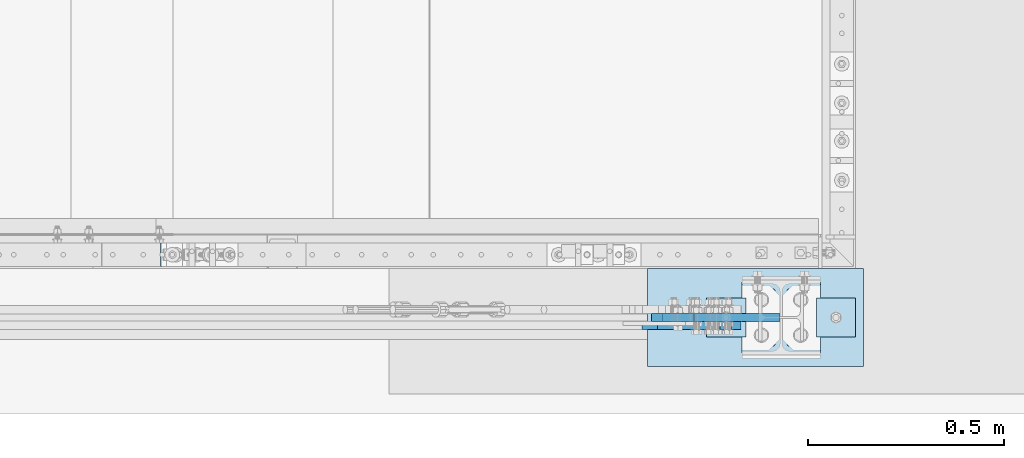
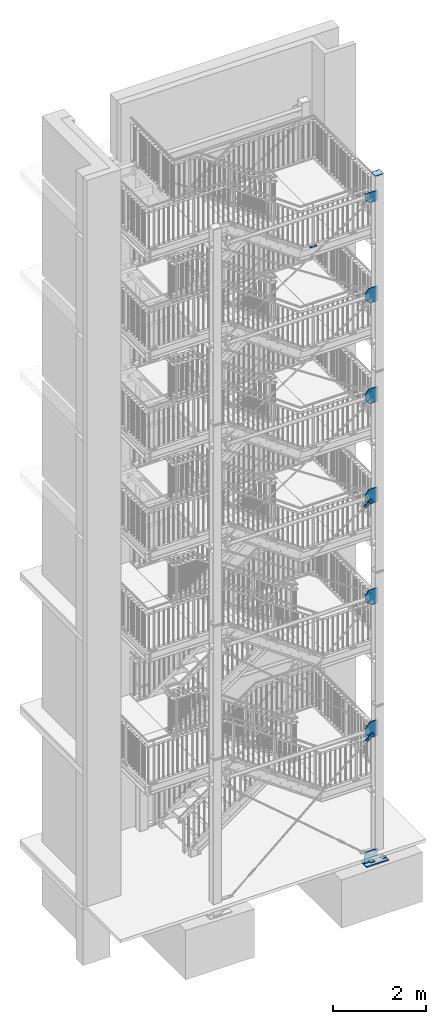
# One storey, part 194 of 825: 14 plates, 53 openings.
"""IFC2X3 building model written with IfcOpenShell, lengths in millimetres."""

from ifc_helpers import new_model, entity, si_unit, converted_unit, point, frame, frame_2d, origin, origin_with_axes, origin_2d_with_axis, place, context, project, spatial, polyline, circle_curve, line_curve, trimmed, segment, composite_curve, circle, outline, extrude, material, layer, layer_set, element, save


model = new_model("IFC2X3")

# Units and contexts
model_context = context("Model", 3, precision=1e-09, world=origin_with_axes())
ifc_project = project(units=[si_unit("LENGTHUNIT", "METRE", prefix="MILLI"), si_unit("AREAUNIT", "SQUARE_METRE"), si_unit("VOLUMEUNIT", "CUBIC_METRE"), converted_unit("PLANEANGLEUNIT", "DEGREE", entity("IfcPlaneAngleMeasure", 0.01745329), si_unit("PLANEANGLEUNIT", "RADIAN"), dimensions=[0, 0, 0, 0, 0, 0, 0])], contexts=[model_context])

# Site, building, storey
site_placement = place(None, origin_with_axes())
site = spatial("IfcSite", under=ifc_project, at=site_placement, Name="Cnopf'sche Kinderklinik", CompositionType="ELEMENT")
building_placement = place(site_placement, origin_with_axes())
building = spatial("IfcBuilding", under=site, at=building_placement, Name="Struktur 1", CompositionType="ELEMENT")
storey_placement = place(building_placement, origin_with_axes())
storey = spatial("IfcBuildingStorey", under=building, at=storey_placement, Name="Default Storey", CompositionType="ELEMENT", Elevation=0.0)

# Plate, opening
ifc_material = material(Name="S235JR")
ifc_layer_1 = layer(ifc_material, 12.0)
ifc_layer_set_1 = layer_set([ifc_layer_1], Name="S235JR")
plate_1_placement = place(None, frame((8726.713402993, 4366.736971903, 60.0), z_axis=(0.0, 0.0, 1.0), x_axis=(-1.0, 0.0, 0.0)))
plate_1 = element("IfcPlate", 1, at=plate_1_placement, inside=storey, material=ifc_layer_set_1, Name="-", ObjectType="-", context=model_context, shape_type="SweptSolid", body=[
    extrude(outline(polyline([(-50.0, -50.0), (50.0, -50.0), (50.0, 50.0), (-50.0, 50.0), (-50.0, -50.0)])), origin_with_axes(), (0.0, 0.0, 1.0), 12.0),
])
opening_1_placement = place(plate_1_placement, frame((1e-09, 1e-09, -0.5), z_axis=(0.0, 0.0, 1.0), x_axis=(1.0, 0.0, 0.0)))
element("IfcOpeningElement", 2, at=opening_1_placement, cuts=plate_1, ObjectType="Opening", context=model_context, shape_type="SweptSolid", body=[
    extrude(circle(Radius=9.001, at=origin_2d_with_axis()), origin(), (0.0, 0.0, 1.0), 13.0),
])

plate_2_placement = place(None, frame((9006.713402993, 4366.736971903, 60.0), z_axis=(0.0, 0.0, 1.0), x_axis=(-1.0, 0.0, 0.0)))
plate_2 = element("IfcPlate", 3, at=plate_2_placement, inside=storey, material=ifc_layer_set_1, Name="-", ObjectType="-", context=model_context, shape_type="SweptSolid", body=[
    extrude(outline(polyline([(-50.0, -50.0), (50.0, -50.0), (50.0, 50.0), (-50.0, 50.0), (-50.0, -50.0)])), origin_with_axes(), (0.0, 0.0, 1.0), 12.0),
])
opening_2_placement = place(plate_2_placement, frame((1e-09, 1e-09, -0.5), z_axis=(0.0, 0.0, 1.0), x_axis=(1.0, 0.0, 0.0)))
element("IfcOpeningElement", 4, at=opening_2_placement, cuts=plate_2, ObjectType="Opening", context=model_context, shape_type="SweptSolid", body=[
    extrude(circle(Radius=9.001, at=origin_2d_with_axis()), origin(), (0.0, 0.0, 1.0), 13.0),
])

# Plate, openings
ifc_layer_2 = layer(ifc_material, 30.0)
ifc_layer_set_2 = layer_set([ifc_layer_2], Name="S235JR")
plate_3_placement = place(None, frame((8801.713402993, 4366.736971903, 30.0), z_axis=(0.0, 0.0, 1.0), x_axis=(-1.0, 0.0, 0.0)))
plate_3 = element("IfcPlate", 5, at=plate_3_placement, inside=storey, material=ifc_layer_set_2, Name="-", ObjectType="-", context=model_context, shape_type="SweptSolid", body=[
    extrude(outline(polyline([(-275.0, -125.0), (275.0, -125.0), (275.0, 125.0), (-275.0, 125.0), (-275.0, -125.0)])), origin_with_axes(), (0.0, 0.0, 1.0), 30.0),
])
opening_3_placement = place(plate_3_placement, frame((-65.0, 0.0, -0.5), z_axis=(0.0, 0.0, 1.0), x_axis=(1.0, 0.0, 0.0)))
element("IfcOpeningElement", 6, at=opening_3_placement, cuts=plate_3, ObjectType="Opening", context=model_context, shape_type="SweptSolid", body=[
    extrude(circle(Radius=28.001, at=frame_2d((140.0, 0.0), x_axis=(1.0, 0.0))), origin(), (0.0, 0.0, 1.0), 31.0),
])
opening_4_placement = place(plate_3_placement, frame((-65.0, 0.0, -0.5), z_axis=(0.0, 0.0, 1.0), x_axis=(1.0, 0.0, 0.0)))
element("IfcOpeningElement", 7, at=opening_4_placement, cuts=plate_3, ObjectType="Opening", context=model_context, shape_type="SweptSolid", body=[
    extrude(circle(Radius=28.001, at=frame_2d((-140.0, 0.0), x_axis=(1.0, 0.0))), origin(), (0.0, 0.0, 1.0), 31.0),
])

ifc_layer_3 = layer(ifc_material, 20.0)
ifc_layer_set_3 = layer_set([ifc_layer_3], Name="S235JR")
plate_4_placement = place(None, frame((8700.088402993, 4356.736971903, 206.477386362), z_axis=(0.0, 1.0, 0.0), x_axis=(-1.0, 0.0, 0.0)))
plate_4 = element("IfcPlate", 8, at=plate_4_placement, inside=storey, material=ifc_layer_set_3, Name="-", ObjectType="-", context=model_context, shape_type="SweptSolid", body=[
    extrude(outline(polyline([(-163.375, -146.477386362), (163.375, -146.477386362), (163.375, 146.477386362), (-163.375, 146.477386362), (-163.375, -146.477386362)])), origin_with_axes(), (0.0, 0.0, 1.0), 20.0),
])
opening_5_placement = place(plate_4_placement, frame((0.0, 0.0, -0.1), z_axis=(0.0, 0.0, 1.0), x_axis=(1.0, 0.0, 0.0)))
element("IfcOpeningElement", 9, at=opening_5_placement, cuts=plate_4, ObjectType="Opening", context=model_context, shape_type="SweptSolid", body=[
    extrude(outline(composite_curve([segment(trimmed(circle_curve(frame_2d((-198.468160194, -200.200309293), x_axis=(1.0, 0.0)), 40.0), [point((-238.468160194, -200.200309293))], [point((-198.468160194, -240.200309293))], True, "CARTESIAN"), True, "CONTINUOUS"), segment(trimmed(line_curve((-198.468160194, -240.200309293), (1.0, 0.0), 201.844160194), [point((-198.468160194, -240.200309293))], [point((3.376, -240.200309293))], True, "CARTESIAN"), True, "CONTINUOUS"), segment(trimmed(circle_curve(frame_2d((3.376, -200.200309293), x_axis=(1.0, 0.0)), 40.0), [point((3.376, -240.200309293))], [point((43.376, -200.200309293))], True, "CARTESIAN"), True, "CONTINUOUS"), segment(trimmed(line_curve((43.376, -200.200309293), (0.0, 1.0), 126.678695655), [point((43.376, -200.200309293))], [point((43.376, -73.521613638))], True, "CARTESIAN"), True, "CONTINUOUS"), segment(trimmed(circle_curve(frame_2d((3.376, -73.521613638), x_axis=(1.0, 0.0)), 40.0), [point((43.376, -73.521613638))], [point((3.376, -33.521613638))], True, "CARTESIAN"), True, "CONTINUOUS"), segment(trimmed(line_curve((3.376, -33.521613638), (-1.0, 0.0), 201.844160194), [point((3.376, -33.521613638))], [point((-198.468160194, -33.521613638))], True, "CARTESIAN"), True, "CONTINUOUS"), segment(trimmed(circle_curve(frame_2d((-198.468160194, -73.521613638), x_axis=(1.0, 0.0)), 40.0), [point((-198.468160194, -33.521613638))], [point((-238.468160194, -73.521613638))], True, "CARTESIAN"), True, "CONTINUOUS"), segment(trimmed(line_curve((-238.468160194, -73.521613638), (0.0, -1.0), 126.678695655), [point((-238.468160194, -73.521613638))], [point((-238.468160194, -200.200309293))], True, "CARTESIAN"), True, "CONTINUOUS")], self_intersect=False)), origin(), (0.0, 0.0, 1.0), 20.2),
])
opening_6_placement = place(plate_4_placement, frame((0.0, 0.0, 20.1), z_axis=(0.0, 0.0, -1.0), x_axis=(-1.0, 0.0, 0.0)))
element("IfcOpeningElement", 10, at=opening_6_placement, cuts=plate_4, ObjectType="Opening", context=model_context, shape_type="SweptSolid", body=[
    extrude(outline(polyline([(-191.909777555, 43.56401857), (-71.378116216, 185.096072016), (-213.193329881, 185.096072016), (-191.909777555, 43.56401857)])), origin(), (0.0, 0.0, 1.0), 20.2),
])
opening_7_placement = place(plate_4_placement, frame((100.284176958, 83.290813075, 20.5), z_axis=(0.0, 0.0, 1.0), x_axis=(1.0, 0.0, 0.0)))
element("IfcOpeningElement", 11, at=opening_7_placement, cuts=plate_4, ObjectType="Opening", context=model_context, shape_type="SweptSolid", body=[
    extrude(circle(Radius=9.001, at=frame_2d((6.821564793, 5.872329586), x_axis=(1.0, 0.0))), origin(), (0.0, 0.0, -1.0), 21.0),
])
opening_8_placement = place(plate_4_placement, frame((54.812130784, 44.146298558, 20.5), z_axis=(0.0, 0.0, 1.0), x_axis=(1.0, 0.0, 0.0)))
element("IfcOpeningElement", 12, at=opening_8_placement, cuts=plate_4, ObjectType="Opening", context=model_context, shape_type="SweptSolid", body=[
    extrude(circle(Radius=9.001, at=frame_2d((6.821564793, 5.872329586), x_axis=(1.0, 0.0))), origin(), (0.0, 0.0, -1.0), 21.0),
])

ifc_layer_4 = layer(ifc_material, 10.0)
ifc_layer_set_4 = layer_set([ifc_layer_4], Name="S235JR")
plate_5_placement = place(None, frame((8866.713402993, 4366.736971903, 18013.999999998), z_axis=(0.0, 0.0, 1.0), x_axis=(1.0, 0.0, 0.0)))
plate_5 = element("IfcPlate", 13, at=plate_5_placement, inside=storey, material=ifc_layer_set_4, Name="-", ObjectType="-", context=model_context, shape_type="SweptSolid", body=[
    extrude(outline(polyline([(-100.0, -90.0), (100.0, -90.0), (100.0, 90.0), (-100.0, 90.0), (-100.0, -90.0)])), origin_with_axes(), (0.0, 0.0, 1.0), 10.0),
])
opening_9_placement = place(plate_5_placement, frame((-21.25, -67.0, 10.5), z_axis=(0.0, 0.0, -1.0), x_axis=(0.0, -1.0, 0.0)))
element("IfcOpeningElement", 14, at=opening_9_placement, cuts=plate_5, ObjectType="Opening", context=model_context, shape_type="SweptSolid", body=[
    extrude(circle(Radius=6.001, at=origin_2d_with_axis()), origin(), (0.0, 0.0, 1.0), 11.0),
])
opening_10_placement = place(plate_5_placement, frame((-21.25, 67.0, 10.5), z_axis=(0.0, 0.0, -1.0), x_axis=(0.0, -1.0, 0.0)))
element("IfcOpeningElement", 15, at=opening_10_placement, cuts=plate_5, ObjectType="Opening", context=model_context, shape_type="SweptSolid", body=[
    extrude(circle(Radius=6.001, at=origin_2d_with_axis()), origin(), (0.0, 0.0, 1.0), 11.0),
])
opening_11_placement = place(plate_5_placement, frame((21.25, 67.0, 10.5), z_axis=(0.0, 0.0, -1.0), x_axis=(0.0, -1.0, 0.0)))
element("IfcOpeningElement", 16, at=opening_11_placement, cuts=plate_5, ObjectType="Opening", context=model_context, shape_type="SweptSolid", body=[
    extrude(circle(Radius=6.001, at=origin_2d_with_axis()), origin(), (0.0, 0.0, 1.0), 11.0),
])
opening_12_placement = place(plate_5_placement, frame((21.25, -67.0, 10.5), z_axis=(0.0, 0.0, -1.0), x_axis=(0.0, -1.0, 0.0)))
element("IfcOpeningElement", 17, at=opening_12_placement, cuts=plate_5, ObjectType="Opening", context=model_context, shape_type="SweptSolid", body=[
    extrude(circle(Radius=6.001, at=origin_2d_with_axis()), origin(), (0.0, 0.0, 1.0), 11.0),
])

plate_6_placement = place(None, frame((8863.463402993, 4356.736971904, 3302.430347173), z_axis=(0.0, -1.0, 0.0), x_axis=(0.0, 0.0, 1.0)))
plate_6 = element("IfcPlate", 18, at=plate_6_placement, inside=storey, material=ifc_layer_set_3, Name="-", ObjectType="-", context=model_context, shape_type="SweptSolid", body=[
    extrude(outline(polyline([(0.0, 0.0), (420.206365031, 0.0), (420.206365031, 177.249749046), (279.569648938, 300.0), (139.569648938, 300.0), (0.0, 181.139563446), (0.0, 0.0)])), origin_with_axes(), (0.0, 0.0, -1.0), 20.0),
])
opening_13_placement = place(plate_6_placement, frame((209.569648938, 260.0, -20.5), z_axis=(0.0, 0.0, 1.0), x_axis=(0.0, -1.0, 0.0)))
element("IfcOpeningElement", 19, at=opening_13_placement, cuts=plate_6, ObjectType="Opening", context=model_context, shape_type="SweptSolid", body=[
    extrude(circle(Radius=9.001, at=frame_2d((0.0, 30.0), x_axis=(1.0, 0.0))), origin(), (0.0, 0.0, 1.0), 21.0),
])
opening_14_placement = place(plate_6_placement, frame((209.569648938, 260.0, -20.5), z_axis=(0.0, 0.0, 1.0), x_axis=(0.0, -1.0, 0.0)))
element("IfcOpeningElement", 20, at=opening_14_placement, cuts=plate_6, ObjectType="Opening", context=model_context, shape_type="SweptSolid", body=[
    extrude(circle(Radius=9.001, at=frame_2d((0.0, -30.0), x_axis=(1.0, 0.0))), origin(), (0.0, 0.0, 1.0), 21.0),
])
opening_15_placement = place(plate_6_placement, frame((71.619889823, 156.998706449, -20.5), z_axis=(0.0, 0.0, 1.0), x_axis=(-0.652408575, 0.757867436, 0.0)))
element("IfcOpeningElement", 21, at=opening_15_placement, cuts=plate_6, ObjectType="Opening", context=model_context, shape_type="SweptSolid", body=[
    extrude(circle(Radius=9.001, at=frame_2d((30.0, 0.0), x_axis=(1.0, 0.0))), origin(), (0.0, 0.0, 1.0), 21.0),
])
opening_16_placement = place(plate_6_placement, frame((71.619889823, 156.998706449, -20.5), z_axis=(0.0, 0.0, 1.0), x_axis=(-0.652408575, 0.757867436, 0.0)))
element("IfcOpeningElement", 22, at=opening_16_placement, cuts=plate_6, ObjectType="Opening", context=model_context, shape_type="SweptSolid", body=[
    extrude(circle(Radius=9.001, at=frame_2d((-30.0, 0.0), x_axis=(1.0, 0.0))), origin(), (0.0, 0.0, 1.0), 21.0),
])
opening_17_placement = place(plate_6_placement, frame((360.470508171, 170.983355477, -20.5), z_axis=(0.0, 0.0, -1.0), x_axis=(-1.0, 0.0, 0.0)))
element("IfcOpeningElement", 23, at=opening_17_placement, cuts=plate_6, ObjectType="Opening", context=model_context, shape_type="SweptSolid", body=[
    extrude(circle(Radius=9.001, at=frame_2d((-5.89276857, 6.803916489), x_axis=(1.0, 0.0))), origin(), (0.0, 0.0, -1.0), 21.0),
])
opening_18_placement = place(plate_6_placement, frame((321.189748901, 125.628951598, -20.5), z_axis=(0.0, 0.0, -1.0), x_axis=(-1.0, 0.0, 0.0)))
element("IfcOpeningElement", 24, at=opening_18_placement, cuts=plate_6, ObjectType="Opening", context=model_context, shape_type="SweptSolid", body=[
    extrude(circle(Radius=9.001, at=frame_2d((-5.89276857, 6.803916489), x_axis=(1.0, 0.0))), origin(), (0.0, 0.0, -1.0), 21.0),
])

plate_7_placement = place(None, frame((8863.463402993, 4376.736971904, 7178.428402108), z_axis=(0.0, 1.0, 0.0), x_axis=(0.0, 0.0, -1.0)))
plate_7 = element("IfcPlate", 25, at=plate_7_placement, inside=storey, material=ifc_layer_set_3, Name="-", ObjectType="-", context=model_context, shape_type="SweptSolid", body=[
    extrude(outline(polyline([(0.0, 0.0), (404.06512209, 0.0), (404.06512209, 177.249749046), (263.428405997, 300.0), (123.428405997, 300.0), (0.0, 219.202103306), (0.0, 0.0)])), origin_with_axes(), (0.0, 0.0, -1.0), 20.0),
])
opening_19_placement = place(plate_7_placement, frame((193.428405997, 260.0, 0.5), z_axis=(0.0, 0.0, -1.0), x_axis=(0.0, -1.0, 0.0)))
element("IfcOpeningElement", 26, at=opening_19_placement, cuts=plate_7, ObjectType="Opening", context=model_context, shape_type="SweptSolid", body=[
    extrude(circle(Radius=9.001, at=frame_2d((0.0, 30.0), x_axis=(1.0, 0.0))), origin(), (0.0, 0.0, 1.0), 21.0),
])
opening_20_placement = place(plate_7_placement, frame((193.428405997, 260.0, 0.5), z_axis=(0.0, 0.0, -1.0), x_axis=(0.0, -1.0, 0.0)))
element("IfcOpeningElement", 27, at=opening_20_placement, cuts=plate_7, ObjectType="Opening", context=model_context, shape_type="SweptSolid", body=[
    extrude(circle(Radius=9.001, at=frame_2d((0.0, -30.0), x_axis=(1.0, 0.0))), origin(), (0.0, 0.0, 1.0), 21.0),
])
opening_21_placement = place(plate_7_placement, frame((330.702941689, 155.250111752, 0.5), z_axis=(0.0, 0.0, -1.0), x_axis=(0.654679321, 0.755906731, 0.0)))
element("IfcOpeningElement", 28, at=opening_21_placement, cuts=plate_7, ObjectType="Opening", context=model_context, shape_type="SweptSolid", body=[
    extrude(circle(Radius=9.001, at=frame_2d((30.0, 0.0), x_axis=(1.0, 0.0))), origin(), (0.0, 0.0, 1.0), 21.0),
])
opening_22_placement = place(plate_7_placement, frame((330.702941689, 155.250111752, 0.5), z_axis=(0.0, 0.0, -1.0), x_axis=(0.654679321, 0.755906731, 0.0)))
element("IfcOpeningElement", 29, at=opening_22_placement, cuts=plate_7, ObjectType="Opening", context=model_context, shape_type="SweptSolid", body=[
    extrude(circle(Radius=9.001, at=frame_2d((-30.0, 0.0), x_axis=(1.0, 0.0))), origin(), (0.0, 0.0, 1.0), 21.0),
])
opening_23_placement = place(plate_7_placement, frame((57.299912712, 204.149413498, 0.5), z_axis=(0.0, 0.0, 1.0), x_axis=(1.0, 0.0, 0.0)))
element("IfcOpeningElement", 30, at=opening_23_placement, cuts=plate_7, ObjectType="Opening", context=model_context, shape_type="SweptSolid", body=[
    extrude(circle(Radius=9.001, at=frame_2d((-4.939030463, 7.524890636), x_axis=(1.0, 0.0))), origin(), (0.0, 0.0, -1.0), 21.0),
])
opening_24_placement = place(plate_7_placement, frame((90.223124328, 153.989049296, 0.5), z_axis=(0.0, 0.0, 1.0), x_axis=(1.0, 0.0, 0.0)))
element("IfcOpeningElement", 31, at=opening_24_placement, cuts=plate_7, ObjectType="Opening", context=model_context, shape_type="SweptSolid", body=[
    extrude(circle(Radius=9.001, at=frame_2d((-4.939030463, 7.524890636), x_axis=(1.0, 0.0))), origin(), (0.0, 0.0, -1.0), 21.0),
])

plate_8_placement = place(None, frame((8863.463402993, 4376.736971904, 9810.428402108), z_axis=(0.0, 1.0, 0.0), x_axis=(0.0, 0.0, -1.0)))
plate_8 = element("IfcPlate", 32, at=plate_8_placement, inside=storey, material=ifc_layer_set_3, Name="-", ObjectType="-", context=model_context, shape_type="SweptSolid", body=[
    extrude(outline(polyline([(0.0, 0.0), (386.856811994, 0.0), (386.856811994, 219.202103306), (263.428405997, 300.0), (123.428405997, 300.0), (0.0, 219.202103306), (0.0, 0.0)])), origin_with_axes(), (0.0, 0.0, -1.0), 20.0),
])
opening_25_placement = place(plate_8_placement, frame((193.428405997, 260.0, 0.5), z_axis=(0.0, 0.0, -1.0), x_axis=(0.0, -1.0, 0.0)))
element("IfcOpeningElement", 33, at=opening_25_placement, cuts=plate_8, ObjectType="Opening", context=model_context, shape_type="SweptSolid", body=[
    extrude(circle(Radius=9.001, at=frame_2d((0.0, 30.0), x_axis=(1.0, 0.0))), origin(), (0.0, 0.0, 1.0), 21.0),
])
opening_26_placement = place(plate_8_placement, frame((193.428405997, 260.0, 0.5), z_axis=(0.0, 0.0, -1.0), x_axis=(0.0, -1.0, 0.0)))
element("IfcOpeningElement", 34, at=opening_26_placement, cuts=plate_8, ObjectType="Opening", context=model_context, shape_type="SweptSolid", body=[
    extrude(circle(Radius=9.001, at=frame_2d((0.0, -30.0), x_axis=(1.0, 0.0))), origin(), (0.0, 0.0, 1.0), 21.0),
])
opening_27_placement = place(plate_8_placement, frame((57.434224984, 204.237470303, 0.5), z_axis=(0.0, 0.0, 1.0), x_axis=(1.0, 0.0, 0.0)))
element("IfcOpeningElement", 35, at=opening_27_placement, cuts=plate_8, ObjectType="Opening", context=model_context, shape_type="SweptSolid", body=[
    extrude(circle(Radius=9.001, at=frame_2d((-4.93237078, 7.529257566), x_axis=(1.0, 0.0))), origin(), (0.0, 0.0, -1.0), 21.0),
])
opening_28_placement = place(plate_8_placement, frame((90.313043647, 154.047996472, 0.5), z_axis=(0.0, 0.0, 1.0), x_axis=(1.0, 0.0, 0.0)))
element("IfcOpeningElement", 36, at=opening_28_placement, cuts=plate_8, ObjectType="Opening", context=model_context, shape_type="SweptSolid", body=[
    extrude(circle(Radius=9.001, at=frame_2d((-4.93237078, 7.529257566), x_axis=(1.0, 0.0))), origin(), (0.0, 0.0, -1.0), 21.0),
])
opening_29_placement = place(plate_8_placement, frame((318.119504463, 186.723899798, 0.5), z_axis=(0.0, 0.0, -1.0), x_axis=(0.548720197, 0.836006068, 0.0)))
element("IfcOpeningElement", 37, at=opening_29_placement, cuts=plate_8, ObjectType="Opening", context=model_context, shape_type="SweptSolid", body=[
    extrude(circle(Radius=9.001, at=frame_2d((30.0, 0.0), x_axis=(1.0, 0.0))), origin(), (0.0, 0.0, 1.0), 21.0),
])
opening_30_placement = place(plate_8_placement, frame((318.119504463, 186.723899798, 0.5), z_axis=(0.0, 0.0, -1.0), x_axis=(0.548720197, 0.836006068, 0.0)))
element("IfcOpeningElement", 38, at=opening_30_placement, cuts=plate_8, ObjectType="Opening", context=model_context, shape_type="SweptSolid", body=[
    extrude(circle(Radius=9.001, at=frame_2d((-30.0, 0.0), x_axis=(1.0, 0.0))), origin(), (0.0, 0.0, 1.0), 21.0),
])

plate_9_placement = place(None, frame((8863.463402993, 4376.736971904, 12437.428402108), z_axis=(0.0, 1.0, 0.0), x_axis=(0.0, 0.0, -1.0)))
plate_9 = element("IfcPlate", 39, at=plate_9_placement, inside=storey, material=ifc_layer_set_3, Name="-", ObjectType="-", context=model_context, shape_type="SweptSolid", body=[
    extrude(outline(polyline([(0.0, 0.0), (386.856811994, 0.0), (386.856811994, 219.202103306), (263.428405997, 300.0), (123.428405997, 300.0), (0.0, 219.202103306), (0.0, 0.0)])), origin_with_axes(), (0.0, 0.0, -1.0), 20.0),
])
opening_31_placement = place(plate_9_placement, frame((193.428405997, 260.000000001, 0.5), z_axis=(0.0, 0.0, -1.0), x_axis=(0.0, -1.0, 0.0)))
element("IfcOpeningElement", 40, at=opening_31_placement, cuts=plate_9, ObjectType="Opening", context=model_context, shape_type="SweptSolid", body=[
    extrude(circle(Radius=9.001, at=frame_2d((0.0, 30.0), x_axis=(1.0, 0.0))), origin(), (0.0, 0.0, 1.0), 21.0),
])
opening_32_placement = place(plate_9_placement, frame((193.428405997, 260.000000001, 0.5), z_axis=(0.0, 0.0, -1.0), x_axis=(0.0, -1.0, 0.0)))
element("IfcOpeningElement", 41, at=opening_32_placement, cuts=plate_9, ObjectType="Opening", context=model_context, shape_type="SweptSolid", body=[
    extrude(circle(Radius=9.001, at=frame_2d((0.0, -30.0), x_axis=(1.0, 0.0))), origin(), (0.0, 0.0, 1.0), 21.0),
])
opening_33_placement = place(plate_9_placement, frame((317.953682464, 186.832359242, 0.5), z_axis=(0.0, 0.0, -1.0), x_axis=(0.547991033, 0.836484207, 0.0)))
element("IfcOpeningElement", 42, at=opening_33_placement, cuts=plate_9, ObjectType="Opening", context=model_context, shape_type="SweptSolid", body=[
    extrude(circle(Radius=9.001, at=frame_2d((30.0, 0.0), x_axis=(1.0, 0.0))), origin(), (0.0, 0.0, 1.0), 21.0),
])
opening_34_placement = place(plate_9_placement, frame((317.953682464, 186.832359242, 0.5), z_axis=(0.0, 0.0, -1.0), x_axis=(0.547991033, 0.836484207, 0.0)))
element("IfcOpeningElement", 43, at=opening_34_placement, cuts=plate_9, ObjectType="Opening", context=model_context, shape_type="SweptSolid", body=[
    extrude(circle(Radius=9.001, at=frame_2d((-30.0, 0.0), x_axis=(1.0, 0.0))), origin(), (0.0, 0.0, 1.0), 21.0),
])
opening_35_placement = place(plate_9_placement, frame((57.191453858, 204.078340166, 0.5), z_axis=(0.0, 0.0, 1.0), x_axis=(1.0, 0.0, 0.0)))
element("IfcOpeningElement", 44, at=opening_35_placement, cuts=plate_9, ObjectType="Opening", context=model_context, shape_type="SweptSolid", body=[
    extrude(circle(Radius=9.001, at=frame_2d((-4.942962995, 7.522308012), x_axis=(1.0, 0.0))), origin(), (0.0, 0.0, -1.0), 21.0),
])
opening_36_placement = place(plate_9_placement, frame((90.140879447, 153.935191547, 0.5), z_axis=(0.0, 0.0, 1.0), x_axis=(1.0, 0.0, 0.0)))
element("IfcOpeningElement", 45, at=opening_36_placement, cuts=plate_9, ObjectType="Opening", context=model_context, shape_type="SweptSolid", body=[
    extrude(circle(Radius=9.001, at=frame_2d((-4.942962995, 7.522308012), x_axis=(1.0, 0.0))), origin(), (0.0, 0.0, -1.0), 21.0),
])

plate_10_placement = place(None, frame((8863.463402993, 4376.736971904, 15072.428402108), z_axis=(0.0, 1.0, 0.0), x_axis=(0.0, 0.0, -1.0)))
plate_10 = element("IfcPlate", 46, at=plate_10_placement, inside=storey, material=ifc_layer_set_3, Name="-", ObjectType="-", context=model_context, shape_type="SweptSolid", body=[
    extrude(outline(polyline([(0.0, 0.0), (386.856811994, 0.0), (386.856811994, 219.202103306), (263.428405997, 300.0), (123.428405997, 300.0), (0.0, 219.202103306), (0.0, 0.0)])), origin_with_axes(), (0.0, 0.0, -1.0), 20.0),
])
opening_37_placement = place(plate_10_placement, frame((193.428405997, 260.0, 0.5), z_axis=(0.0, 0.0, -1.0), x_axis=(0.0, -1.0, 0.0)))
element("IfcOpeningElement", 47, at=opening_37_placement, cuts=plate_10, ObjectType="Opening", context=model_context, shape_type="SweptSolid", body=[
    extrude(circle(Radius=9.001, at=frame_2d((0.0, 30.0), x_axis=(1.0, 0.0))), origin(), (0.0, 0.0, 1.0), 21.0),
])
opening_38_placement = place(plate_10_placement, frame((193.428405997, 260.0, 0.5), z_axis=(0.0, 0.0, -1.0), x_axis=(0.0, -1.0, 0.0)))
element("IfcOpeningElement", 48, at=opening_38_placement, cuts=plate_10, ObjectType="Opening", context=model_context, shape_type="SweptSolid", body=[
    extrude(circle(Radius=9.001, at=frame_2d((0.0, -30.0), x_axis=(1.0, 0.0))), origin(), (0.0, 0.0, 1.0), 21.0),
])
opening_39_placement = place(plate_10_placement, frame((318.218924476, 186.658910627, 0.5), z_axis=(0.0, 0.0, -1.0), x_axis=(0.549157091, 0.835719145, 0.0)))
element("IfcOpeningElement", 49, at=opening_39_placement, cuts=plate_10, ObjectType="Opening", context=model_context, shape_type="SweptSolid", body=[
    extrude(circle(Radius=9.001, at=frame_2d((30.0, 0.0), x_axis=(1.0, 0.0))), origin(), (0.0, 0.0, 1.0), 21.0),
])
opening_40_placement = place(plate_10_placement, frame((318.218924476, 186.658910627, 0.5), z_axis=(0.0, 0.0, -1.0), x_axis=(0.549157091, 0.835719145, 0.0)))
element("IfcOpeningElement", 50, at=opening_40_placement, cuts=plate_10, ObjectType="Opening", context=model_context, shape_type="SweptSolid", body=[
    extrude(circle(Radius=9.001, at=frame_2d((-30.0, 0.0), x_axis=(1.0, 0.0))), origin(), (0.0, 0.0, 1.0), 21.0),
])
opening_41_placement = place(plate_10_placement, frame((57.734427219, 204.434295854, 0.5), z_axis=(0.0, 0.0, 1.0), x_axis=(1.0, 0.0, 0.0)))
element("IfcOpeningElement", 51, at=opening_41_placement, cuts=plate_10, ObjectType="Opening", context=model_context, shape_type="SweptSolid", body=[
    extrude(circle(Radius=9.001, at=frame_2d((-4.9232598, 7.535218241), x_axis=(1.0, 0.0))), origin(), (0.0, 0.0, -1.0), 21.0),
])
opening_42_placement = place(plate_10_placement, frame((90.552512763, 154.205088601, 0.5), z_axis=(0.0, 0.0, 1.0), x_axis=(1.0, 0.0, 0.0)))
element("IfcOpeningElement", 52, at=opening_42_placement, cuts=plate_10, ObjectType="Opening", context=model_context, shape_type="SweptSolid", body=[
    extrude(circle(Radius=9.001, at=frame_2d((-4.9232598, 7.535218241), x_axis=(1.0, 0.0))), origin(), (0.0, 0.0, -1.0), 21.0),
])

plate_11_placement = place(None, frame((8563.463402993, 4376.736971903, 17582.999996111), z_axis=(0.0, 1.0, 0.0), x_axis=(1.0, 0.0, 0.0)))
plate_11 = element("IfcPlate", 53, at=plate_11_placement, inside=storey, material=ifc_layer_set_3, Name="-", ObjectType="-", context=model_context, shape_type="SweptSolid", body=[
    extrude(outline(polyline([(0.0, -110.000000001), (300.0, -110.000000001), (300.0, 277.428405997), (80.797896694, 277.428405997), (0.0, 154.0), (0.0, -110.000000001)])), origin_with_axes(), (0.0, 0.0, -1.0), 20.0),
])
opening_43_placement = place(plate_11_placement, frame((625.73494081, 10.002996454, 0.1), z_axis=(0.0, 0.0, 1.0), x_axis=(-1.0, 0.0, 0.0)))
element("IfcOpeningElement", 54, at=opening_43_placement, cuts=plate_11, ObjectType="Opening", context=model_context, shape_type="SweptSolid", body=[
    extrude(outline(polyline([(0.0, 0.0), (780.550880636, 0.0), (528.408784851, 348.845890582), (0.0, 0.0)])), origin(), (0.0, 0.0, -1.0), 20.2),
])
opening_44_placement = place(plate_11_placement, frame((40.0, 84.0, 0.5), z_axis=(0.0, 0.0, -1.0), x_axis=(1.0, 0.0, 0.0)))
element("IfcOpeningElement", 55, at=opening_44_placement, cuts=plate_11, ObjectType="Opening", context=model_context, shape_type="SweptSolid", body=[
    extrude(circle(Radius=9.001, at=frame_2d((0.0, 30.0), x_axis=(1.0, 0.0))), origin(), (0.0, 0.0, 1.0), 21.0),
])
opening_45_placement = place(plate_11_placement, frame((40.0, 84.0, 0.5), z_axis=(0.0, 0.0, -1.0), x_axis=(1.0, 0.0, 0.0)))
element("IfcOpeningElement", 56, at=opening_45_placement, cuts=plate_11, ObjectType="Opening", context=model_context, shape_type="SweptSolid", body=[
    extrude(circle(Radius=9.001, at=frame_2d((0.0, -30.0), x_axis=(1.0, 0.0))), origin(), (0.0, 0.0, 1.0), 21.0),
])
opening_46_placement = place(plate_11_placement, frame((113.015549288, 208.292833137, 0.5), z_axis=(0.0, 0.0, -1.0), x_axis=(-0.837153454, 0.546968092, 0.0)))
element("IfcOpeningElement", 57, at=opening_46_placement, cuts=plate_11, ObjectType="Opening", context=model_context, shape_type="SweptSolid", body=[
    extrude(circle(Radius=9.001, at=frame_2d((30.0, 0.0), x_axis=(1.0, 0.0))), origin(), (0.0, 0.0, 1.0), 21.0),
])
opening_47_placement = place(plate_11_placement, frame((113.015549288, 208.292833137, 0.5), z_axis=(0.0, 0.0, -1.0), x_axis=(-0.837153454, 0.546968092, 0.0)))
element("IfcOpeningElement", 58, at=opening_47_placement, cuts=plate_11, ObjectType="Opening", context=model_context, shape_type="SweptSolid", body=[
    extrude(circle(Radius=9.001, at=frame_2d((-30.0, 0.0), x_axis=(1.0, 0.0))), origin(), (0.0, 0.0, 1.0), 21.0),
])

plate_12_placement = place(None, frame((8584.803726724, 4356.736971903, 3254.804237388), z_axis=(0.0, -1.0, 0.0), x_axis=(0.652408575, 0.0, -0.757867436)))
plate_12 = element("IfcPlate", 59, at=plate_12_placement, inside=storey, material=ifc_layer_set_3, Name="-", ObjectType="-", context=model_context, shape_type="SweptSolid", body=[
    extrude(outline(polyline([(0.0, 0.0), (29.0, 0.0), (29.0, 210.0), (9.0, 230.0), (-31.0, 230.0), (-51.0, 210.0), (-51.0, 0.0), (-22.0, 0.0), (-22.0, 80.0), (0.0, 80.0), (0.0, 0.0)])), origin_with_axes(), (0.0, 0.0, 1.0), 20.0),
])
opening_48_placement = place(plate_12_placement, frame((-11.000000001, 170.0, -0.5), z_axis=(0.0, 0.0, 1.0), x_axis=(0.0, -1.0, 0.0)))
element("IfcOpeningElement", 60, at=opening_48_placement, cuts=plate_12, ObjectType="Opening", context=model_context, shape_type="SweptSolid", body=[
    extrude(circle(Radius=9.001, at=frame_2d((30.0, 0.0), x_axis=(1.0, 0.0))), origin(), (0.0, 0.0, 1.0), 21.0),
])
opening_49_placement = place(plate_12_placement, frame((-11.000000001, 170.0, -0.5), z_axis=(0.0, 0.0, 1.0), x_axis=(0.0, -1.0, 0.0)))
element("IfcOpeningElement", 61, at=opening_49_placement, cuts=plate_12, ObjectType="Opening", context=model_context, shape_type="SweptSolid", body=[
    extrude(circle(Radius=9.001, at=frame_2d((-30.0, 0.0), x_axis=(1.0, 0.0))), origin(), (0.0, 0.0, 1.0), 21.0),
])

plate_13_placement = place(None, frame((8540.654393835, 4356.736971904, 9389.83039741), z_axis=(0.0, -1.0, 0.0), x_axis=(0.548720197, 0.0, -0.836006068)))
plate_13 = element("IfcPlate", 62, at=plate_13_placement, inside=storey, material=ifc_layer_set_3, Name="-", ObjectType="-", context=model_context, shape_type="SweptSolid", body=[
    extrude(outline(polyline([(0.0, 0.0), (29.0, 0.0), (29.0, 210.0), (9.0, 230.0), (-31.0, 230.0), (-51.0, 210.0), (-51.0, 0.0), (-22.0, 0.0), (-22.0, 80.0), (0.0, 80.0), (0.0, 0.0)])), origin_with_axes(), (0.0, 0.0, 1.0), 20.0),
])
opening_50_placement = place(plate_13_placement, frame((-11.0, 170.0, -0.5), z_axis=(0.0, 0.0, 1.0), x_axis=(0.0, -1.0, 0.0)))
element("IfcOpeningElement", 63, at=opening_50_placement, cuts=plate_13, ObjectType="Opening", context=model_context, shape_type="SweptSolid", body=[
    extrude(circle(Radius=9.001, at=frame_2d((30.0, 0.0), x_axis=(1.0, 0.0))), origin(), (0.0, 0.0, 1.0), 21.0),
])
opening_51_placement = place(plate_13_placement, frame((-11.0, 170.0, -0.5), z_axis=(0.0, 0.0, 1.0), x_axis=(0.0, -1.0, 0.0)))
element("IfcOpeningElement", 64, at=opening_51_placement, cuts=plate_13, ObjectType="Opening", context=model_context, shape_type="SweptSolid", body=[
    extrude(circle(Radius=9.001, at=frame_2d((-30.0, 0.0), x_axis=(1.0, 0.0))), origin(), (0.0, 0.0, 1.0), 21.0),
])

plate_14_placement = place(None, frame((7284.792117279, 4496.736971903, 16524.0000003), z_axis=(0.0, 0.0, 1.0), x_axis=(1.0, 0.0, 0.0)))
plate_14 = element("IfcPlate", 65, at=plate_14_placement, inside=storey, material=ifc_layer_set_3, Name="Plate#509", ObjectType="Plate#509", context=model_context, shape_type="SweptSolid", body=[
    extrude(outline(polyline([(0.0, 0.0), (160.0, 0.0), (160.0, 60.0), (0.0, 60.0), (0.0, 0.0)])), origin_with_axes(), (0.0, 0.0, 1.0), 20.0),
])
opening_52_placement = place(plate_14_placement, frame((38.0, 37.001, 20.5), z_axis=(0.0, 0.0, 1.0), x_axis=(-1.0, 0.0, 0.0)))
element("IfcOpeningElement", 66, at=opening_52_placement, cuts=plate_14, ObjectType="Opening", context=model_context, shape_type="SweptSolid", body=[
    extrude(outline(composite_curve([segment(trimmed(line_curve((0.0, 0.0), (1.0, 0.0), 16.0), [point((0.0, 0.0))], [point((16.0, 0.0))], True, "CARTESIAN"), True, "CONTINUOUS"), segment(trimmed(circle_curve(frame_2d((16.0, 7.001), x_axis=(1.0, 0.0)), 7.001), [point((16.0, 0.0))], [point((16.0, 14.002))], True, "CARTESIAN"), True, "CONTINUOUS"), segment(trimmed(line_curve((16.0, 14.002), (-1.0, 0.0), 16.0), [point((16.0, 14.002))], [point((0.0, 14.002))], True, "CARTESIAN"), True, "CONTINUOUS"), segment(trimmed(circle_curve(frame_2d((0.0, 7.001), x_axis=(1.0, 0.0)), 7.001), [point((0.0, 14.002))], [point((0.0, 0.0))], True, "CARTESIAN"), True, "CONTINUOUS")], self_intersect=False)), origin(), (0.0, 0.0, -1.0), 21.0),
])
opening_53_placement = place(plate_14_placement, frame((138.0, 37.001, 20.5), z_axis=(0.0, 0.0, 1.0), x_axis=(-1.0, 0.0, 0.0)))
element("IfcOpeningElement", 67, at=opening_53_placement, cuts=plate_14, ObjectType="Opening", context=model_context, shape_type="SweptSolid", body=[
    extrude(outline(composite_curve([segment(trimmed(line_curve((0.0, 0.0), (1.0, 0.0), 16.0), [point((0.0, 0.0))], [point((16.0, 0.0))], True, "CARTESIAN"), True, "CONTINUOUS"), segment(trimmed(circle_curve(frame_2d((16.0, 7.001), x_axis=(1.0, 0.0)), 7.001), [point((16.0, 0.0))], [point((16.0, 14.002))], True, "CARTESIAN"), True, "CONTINUOUS"), segment(trimmed(line_curve((16.0, 14.002), (-1.0, 0.0), 16.0), [point((16.0, 14.002))], [point((0.0, 14.002))], True, "CARTESIAN"), True, "CONTINUOUS"), segment(trimmed(circle_curve(frame_2d((0.0, 7.001), x_axis=(1.0, 0.0)), 7.001), [point((0.0, 14.002))], [point((0.0, 0.0))], True, "CARTESIAN"), True, "CONTINUOUS")], self_intersect=False)), origin(), (0.0, 0.0, -1.0), 21.0),
])

save(model, "model.ifc")
